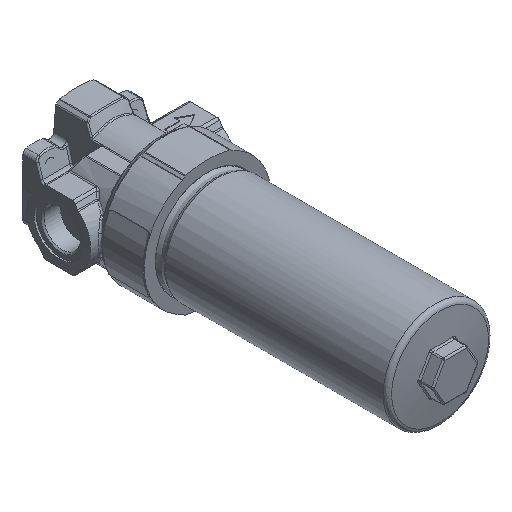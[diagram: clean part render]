
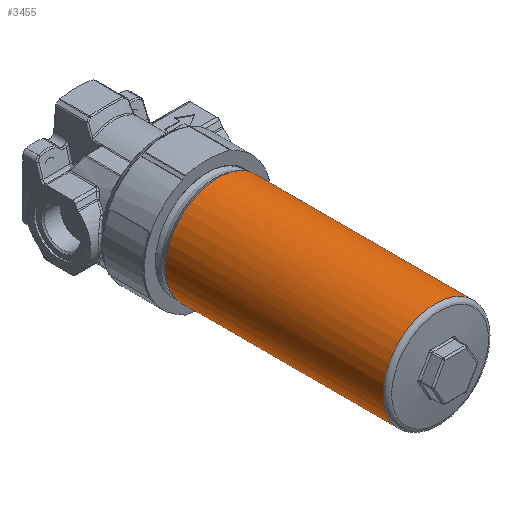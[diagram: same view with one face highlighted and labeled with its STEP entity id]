
A CAD part, isometric view. The second image highlights one B-rep face of the part: STEP entity #3455.
In plain terms, the highlighted free-form (B-spline) face has degree [2, 1] with [7, 2] control points.
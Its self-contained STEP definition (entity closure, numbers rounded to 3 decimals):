
#3345=CARTESIAN_POINT('V6',(-35.25,-157.002,
   0.0));
#3346=VERTEX_POINT('V6',#3345);
#3360=CARTESIAN_POINT('E8',(-35.25,-157.002,
   0.0));
#3361=CARTESIAN_POINT('E8',(-35.25,-157.002,
   1.73));
#3362=CARTESIAN_POINT('E8',(-34.995,-157.002,
   5.193));
#3363=CARTESIAN_POINT('E8',(-33.854,-157.002,
   10.272));
#3364=CARTESIAN_POINT('E8',(-31.979,-157.002,
   15.13));
#3365=CARTESIAN_POINT('E8',(-29.412,-157.002,
   19.659));
#3366=CARTESIAN_POINT('E8',(-26.208,-157.002,
   23.763));
#3367=CARTESIAN_POINT('E8',(-22.437,-157.002,
   27.353));
#3368=CARTESIAN_POINT('E8',(-18.179,-157.002,
   30.35));
#3369=CARTESIAN_POINT('E8',(-13.111,-157.002,
   32.899));
#3370=CARTESIAN_POINT('E8',(-7.232,-157.002,
   34.711));
#3371=CARTESIAN_POINT('E8',(-0.655,-157.002,
   35.45));
#3372=CARTESIAN_POINT('E8',(5.946,-157.002,
   34.954));
#3373=CARTESIAN_POINT('E8',(12.605,-157.002,
   33.169));
#3374=CARTESIAN_POINT('E8',(19.035,-157.002,
   29.978));
#3375=CARTESIAN_POINT('E8',(24.744,-157.002,
   25.447));
#3376=CARTESIAN_POINT('E8',(29.312,-157.002,
   19.987));
#3377=CARTESIAN_POINT('E8',(32.648,-157.002,
   13.884));
#3378=CARTESIAN_POINT('E8',(34.729,-157.002,
   7.248));
#3379=CARTESIAN_POINT('E8',(35.469,-157.002,
   0.398));
#3380=CARTESIAN_POINT('E8',(34.883,-157.002,
   -6.399));
#3381=CARTESIAN_POINT('E8',(33.036,-157.002,
   -12.898));
#3382=CARTESIAN_POINT('E8',(29.99,-157.002,
   -18.93));
#3383=CARTESIAN_POINT('E8',(25.9,-157.002,
   -24.216));
#3384=CARTESIAN_POINT('E8',(20.952,-157.002,
   -28.597));
#3385=CARTESIAN_POINT('E8',(15.346,-157.002,
   -31.958));
#3386=CARTESIAN_POINT('E8',(9.218,-157.002,
   -34.231));
#3387=CARTESIAN_POINT('E8',(1.89,-157.002,
   -35.495));
#3388=CARTESIAN_POINT('E8',(-6.474,-157.002,
   -35.061));
#3389=CARTESIAN_POINT('E8',(-14.427,-157.002,
   -32.485));
#3390=CARTESIAN_POINT('E8',(-20.796,-157.002,
   -28.707));
#3391=CARTESIAN_POINT('E8',(-25.742,-157.002,
   -24.381));
#3392=CARTESIAN_POINT('E8',(-29.849,-157.002,
   -19.148));
#3393=CARTESIAN_POINT('E8',(-32.93,-157.002,
   -13.162));
#3394=CARTESIAN_POINT('E8',(-34.824,-157.002,
   -6.702));
#3395=CARTESIAN_POINT('E8',(-35.25,-157.002,
   -2.233));
#3396=CARTESIAN_POINT('E8',(-35.25,-157.002,
   0.0));
#3397=B_SPLINE_CURVE_WITH_KNOTS('E8',3,(#3360,#3361,#3362,#3363,
   #3364,#3365,#3366,#3367,#3368,#3369,#3370,#3371,#3372,#3373,#3374,
   #3375,#3376,#3377,#3378,#3379,#3380,#3381,#3382,#3383,#3384,#3385,
   #3386,#3387,#3388,#3389,#3390,#3391,#3392,#3393,#3394,#3395,#3396),
   .UNSPECIFIED.,.T.,.U.,(4,1,1,1,1,1,1,1,1,1,1,1,1,1,1,1,1,1,1,1,1,
   1,1,1,1,1,1,1,1,1,1,1,1,1,4),(2.0,3.067,
   4.134,5.201,6.269,
   7.336,8.403,9.47,
   10.537,11.891,13.246,
   14.6,15.954,17.477,
   19.,20.422,21.845,
   23.267,24.689,26.071,
   27.453,28.836,30.218,
   31.555,32.892,34.23,
   35.567,37.457,39.347,
   40.675,42.003,43.381,
   44.758,46.135,47.512),
   .UNSPECIFIED.);
#3398=EDGE_CURVE('E8',#3346,#3346,#3397,.T.);
#3405=CARTESIAN_POINT('F5',(-35.25,-10.871,
   0.0));
#3406=CARTESIAN_POINT('F5',(-35.25,-10.871,
   -61.055));
#3407=CARTESIAN_POINT('F5',(17.625,-10.871,
   -30.527));
#3408=CARTESIAN_POINT('F5',(70.5,-10.871,
   0.));
#3409=CARTESIAN_POINT('F5',(17.625,-10.871,
   30.527));
#3410=CARTESIAN_POINT('F5',(-35.25,-10.871,
   61.055));
#3411=CARTESIAN_POINT('F5',(-35.25,-10.871,
   0.0));
#3412=CARTESIAN_POINT('F5',(-35.25,-159.751,
   0.0));
#3413=CARTESIAN_POINT('F5',(-35.25,-159.751,
   -61.055));
#3414=CARTESIAN_POINT('F5',(17.625,-159.751,
   -30.527));
#3415=CARTESIAN_POINT('F5',(70.5,-159.751,
   0.));
#3416=CARTESIAN_POINT('F5',(17.625,-159.751,
   30.527));
#3417=CARTESIAN_POINT('F5',(-35.25,-159.751,
   61.055));
#3418=CARTESIAN_POINT('F5',(-35.25,-159.751,
   0.0));
#3426=(BOUNDED_SURFACE()B_SPLINE_SURFACE(2,1,((#3405,#3412),(
   #3406,#3413),(#3407,#3414),(#3408,#3415),(#3409,#3416),(
   #3410,#3417),(#3411,#3418)),.CYLINDRICAL_SURF.,.T.,.F.,.U.)
   B_SPLINE_SURFACE_WITH_KNOTS((3,2,2,3),(2,2),(0.0,
   0.82,1.64,2.461),(0.0,1.0),
   .UNSPECIFIED.)GEOMETRIC_REPRESENTATION_ITEM()
   RATIONAL_B_SPLINE_SURFACE(((1.0,1.0),(0.5,
   0.5),(1.0,1.0),(0.5,
   0.5),(1.0,1.0),(0.5,
   0.5),(1.0,1.0)))REPRESENTATION_ITEM('F5')SURFACE()
   );
#3427=ORIENTED_EDGE('E8',*,*,#3398,.T.);
#3428=CARTESIAN_POINT('V7',(-35.25,-10.871,
   0.0));
#3429=VERTEX_POINT('V7',#3428);
#3430=CARTESIAN_POINT('E12',(-35.25,
   -157.002,0.0));
#3431=CARTESIAN_POINT('E12',(-35.25,-10.871,
   0.0));
#3432=B_SPLINE_CURVE_WITH_KNOTS('E12',1,(#3430,#3431),
   .POLYLINE_FORM.,.F.,.U.,(2,2),(0.018,1.0),
   .UNSPECIFIED.);
#3433=EDGE_CURVE('E12',#3346,#3429,#3432,.T.);
#3434=ORIENTED_EDGE('E12',*,*,#3433,.T.);
#3435=CARTESIAN_POINT('E11',(-35.25,-10.871,
   0.0));
#3436=CARTESIAN_POINT('E11',(-35.25,-10.871,
   -61.055));
#3437=CARTESIAN_POINT('E11',(17.625,-10.871,
   -30.527));
#3438=CARTESIAN_POINT('E11',(70.5,-10.871,
   0.));
#3439=CARTESIAN_POINT('E11',(17.625,-10.871,
   30.527));
#3440=CARTESIAN_POINT('E11',(-35.25,-10.871,
   61.055));
#3441=CARTESIAN_POINT('E11',(-35.25,-10.871,
   0.0));
#3449=(BOUNDED_CURVE()B_SPLINE_CURVE(2,(#3435,#3436,#3437,#3438,
   #3439,#3440,#3441),.CIRCULAR_ARC.,.T.,.U.)
   B_SPLINE_CURVE_WITH_KNOTS((3,2,2,3),(0.0,0.82,
   1.64,2.461),.UNSPECIFIED.)CURVE()
   GEOMETRIC_REPRESENTATION_ITEM()RATIONAL_B_SPLINE_CURVE((1.0,
   0.5,1.0,0.5,1.0,0.5,1.0)
   )REPRESENTATION_ITEM('E11'));
#3450=EDGE_CURVE('E11',#3429,#3429,#3449,.T.);
#3451=ORIENTED_EDGE('E11',*,*,#3450,.T.);
#3452=ORIENTED_EDGE('E12',*,*,#3433,.F.);
#3453=EDGE_LOOP('F5',(#3427,#3434,#3451,#3452));
#3454=FACE_OUTER_BOUND('F5',#3453,.T.);
#3455=ADVANCED_FACE('F5',(#3454),#3426,.T.);
